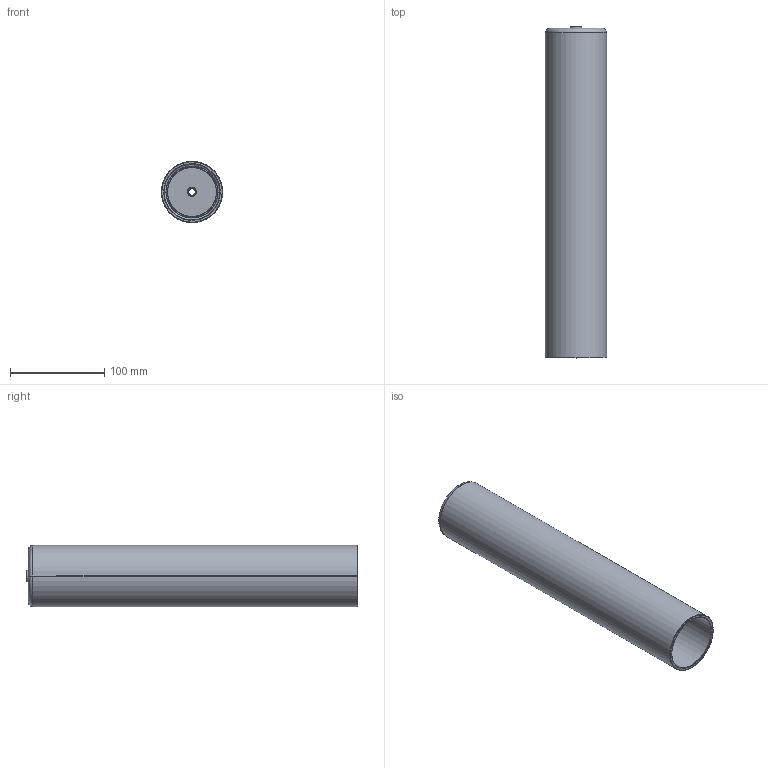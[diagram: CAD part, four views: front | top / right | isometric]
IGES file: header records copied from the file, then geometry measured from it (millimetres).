
Start section: SolidWorks IGES file using analytic representation for surfaces
Global section: file name: F:\GABRYSIA\MODELE 3D\_CAMELEON\KLOSZE I OPRAWY WWW\CYLINDER_L_8537_8538_8540_WWW\CYLINDER_L_8537_8538_8540.IGS; native system: SolidWorks 2017; preprocessor: SolidWorks 2017; author: Togambi; date: 200518.122855; units: millimetre
Bounding box: 65 x 352.3 x 65 mm (x, y, z)
Surface area: 180134.8 mm2 (no closed solid volume)
Topology: 0 solids, 0 shells, 138 faces, 1866 edges, 1866 vertices
Faces by surface type: bspline 95, revolution 43
